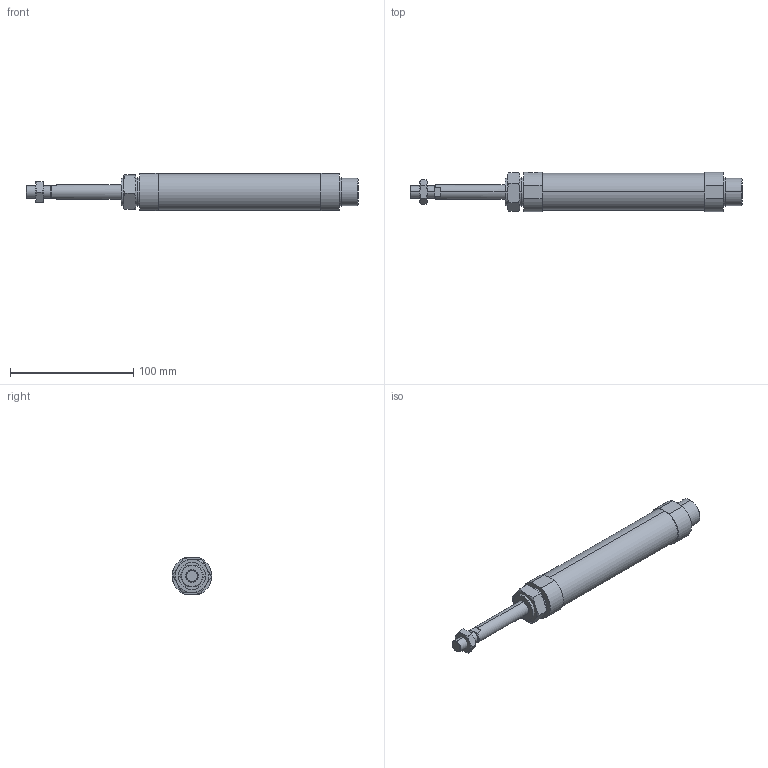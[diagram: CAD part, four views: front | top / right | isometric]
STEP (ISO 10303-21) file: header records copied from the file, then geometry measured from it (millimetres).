
FILE_DESCRIPTION (( 'STEP AP203' ), '1' );
FILE_NAME ('J#0-25-50-N.STEP', '2016-03-08T06:37:32', ( '' ), ( '' ), 'SwSTEP 2.0', 'SolidWorks 2014', '' );
FILE_SCHEMA (( 'CONFIG_CONTROL_DESIGN' ));
Length unit declared in the file: millimetre
Products named in the file (4): J#0-25-50; J#0-25-50-N
Assembly tree (3 placements, depth 2):
  J#0-25-50-N
    J#0-25-50
    (unnamed)
    (unnamed)
Bounding box: 269 x 32 x 30 mm (x, y, z)
Volume: 139354.5 mm3; surface area: 25640.6 mm2
Topology: 3 solids, 3 shells, 93 faces, 204 edges, 121 vertices
Faces by surface type: plane 37, cylinder 24, torus 24, cone 8
Entity records: 3196 total; most frequent: CARTESIAN_POINT 796, DIRECTION 426, ORIENTED_EDGE 404, EDGE_CURVE 202, AXIS2_PLACEMENT_3D 179, VERTEX_POINT 121, EDGE_LOOP 103, ADVANCED_FACE 93
